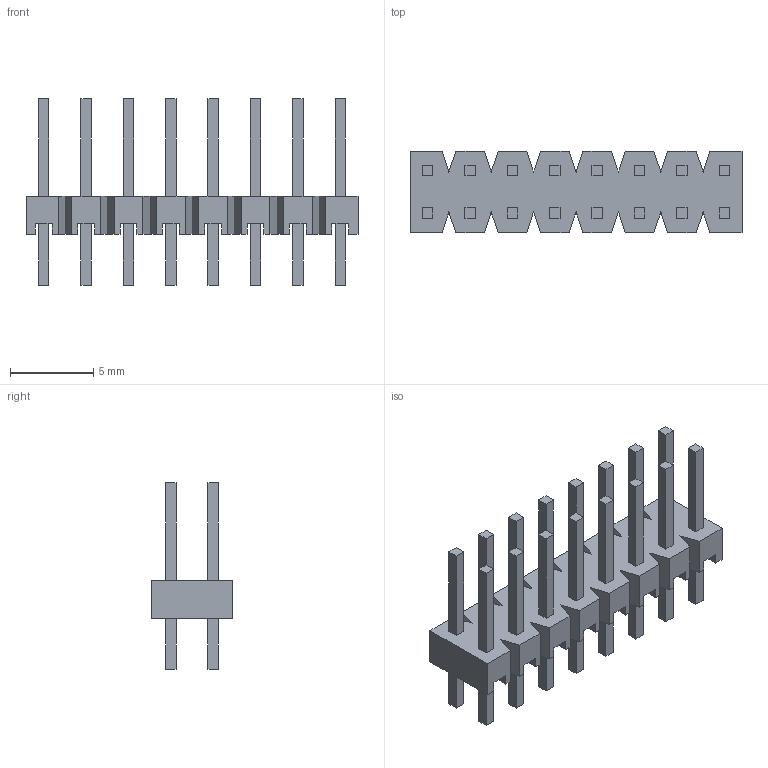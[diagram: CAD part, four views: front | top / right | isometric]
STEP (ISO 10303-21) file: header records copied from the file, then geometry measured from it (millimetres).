
FILE_DESCRIPTION((''),'2;1');
FILE_NAME('C-5-146254-8','2016-09-01T',('workeradm'),('Tyco Electronics Ltd.'),'CREO PARAMETRIC BY PTC INC, 2016050','CREO PARAMETRIC BY PTC INC, 2016050','');
FILE_SCHEMA(('AUTOMOTIVE_DESIGN { 1 0 10303 214 1 1 1 1 }'));
Length unit declared in the file: millimetre
Products named in the file (1): C-5-146254-8
Bounding box: 19.91 x 4.88 x 11.18 mm (x, y, z)
Volume: 231.1 mm3; surface area: 775.1 mm2
Topology: 1 solids, 1 shells, 304 faces, 810 edges, 540 vertices
Faces by surface type: plane 304
Entity records: 9430 total; most frequent: CARTESIAN_POINT 1656, ORIENTED_EDGE 1620, DIRECTION 1418, VECTOR 810, LINE 810, EDGE_CURVE 810, VERTEX_POINT 540, EDGE_LOOP 336
